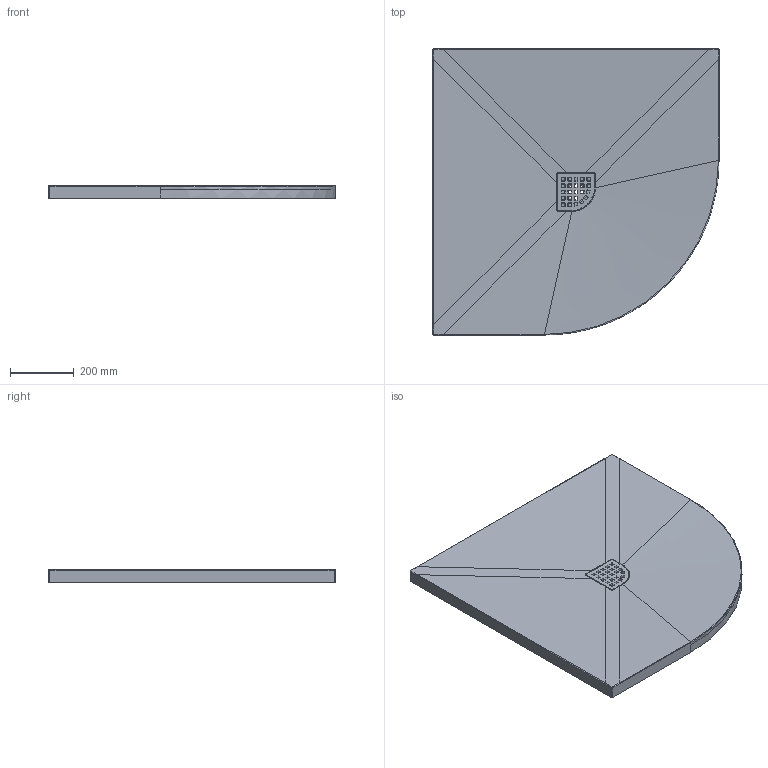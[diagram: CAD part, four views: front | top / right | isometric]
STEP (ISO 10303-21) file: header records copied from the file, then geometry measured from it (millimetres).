
FILE_DESCRIPTION (( 'STEP AP214' ), '1' );
FILE_NAME ('TRENT 90x90 R550.STEP', '2024-05-13T12:04:02', ( '' ), ( '' ), 'SwSTEP 2.0', 'SolidWorks 2021', '' );
FILE_SCHEMA (( 'AUTOMOTIVE_DESIGN' ));
Length unit declared in the file: millimetre
Products named in the file (1): TRENT 90x90 R550
Bounding box: 900 x 900 x 40.22 mm (x, y, z)
Volume: 10965778.9 mm3; surface area: 1905683.4 mm2
Topology: 3 solids, 3 shells, 759 faces, 1776 edges, 1029 vertices
Faces by surface type: cylinder 334, bspline 266, plane 159
Full cylindrical faces by diameter (mm): 66 x1
Entity records: 35184 total; most frequent: CARTESIAN_POINT 20124, ORIENTED_EDGE 3542, DIRECTION 2223, EDGE_CURVE 1771, VERTEX_POINT 1029, EDGE_LOOP 820, VECTOR 783, LINE 783
